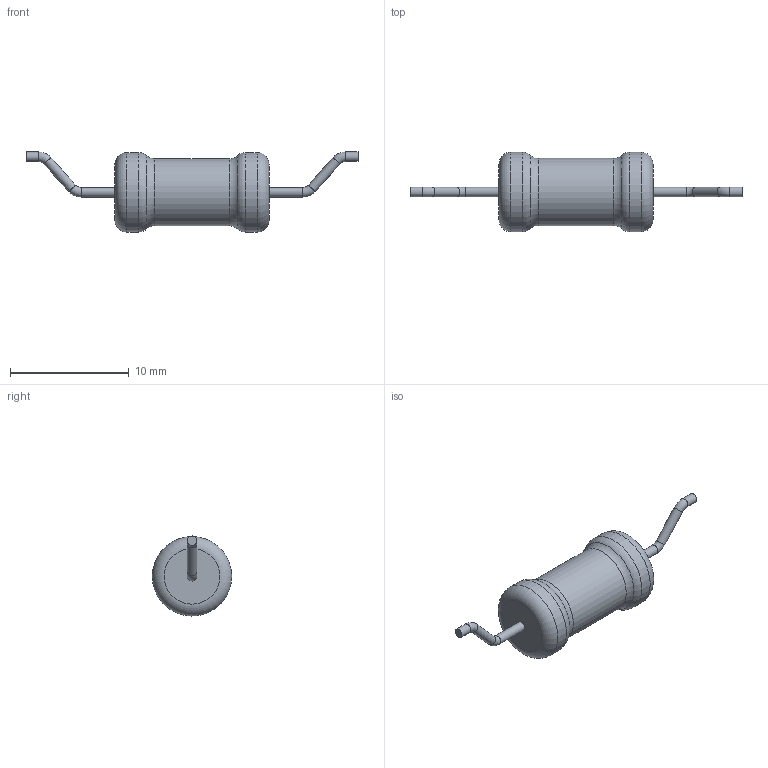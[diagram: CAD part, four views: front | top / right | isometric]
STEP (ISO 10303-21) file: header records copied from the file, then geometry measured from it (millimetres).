
FILE_DESCRIPTION(('STEP AP203'), '1');
FILE_NAME('C2-33-1 (3)', '', ('UNSPECIFIED'), ('UNSPECIFIED'), 'ASCON STEP Converter 1.6', 'ASCON Math Kernel', '');
FILE_SCHEMA(('CONFIG_CONTROL_DESIGN'));
Length unit declared in the file: millimetre
Bounding box: 28 x 6.7 x 6.75 mm (x, y, z)
Volume: 381.6 mm3; surface area: 349.2 mm2
Topology: 1 solids, 1 shells, 23 faces, 41 edges, 22 vertices
Faces by surface type: torus 10, cylinder 9, plane 4
Full cylindrical faces by diameter (mm): 0.8 x6, 5.668 x1, 6.7 x2
Entity records: 682 total; most frequent: DIRECTION 92, CARTESIAN_POINT 68, AXIS2_PLACEMENT_3D 46, EDGE_LOOP 44, ORIENTED_EDGE 44, FACE_OUTER_BOUND 38, COLOUR_RGB 24, FILL_AREA_STYLE_COLOUR 24
